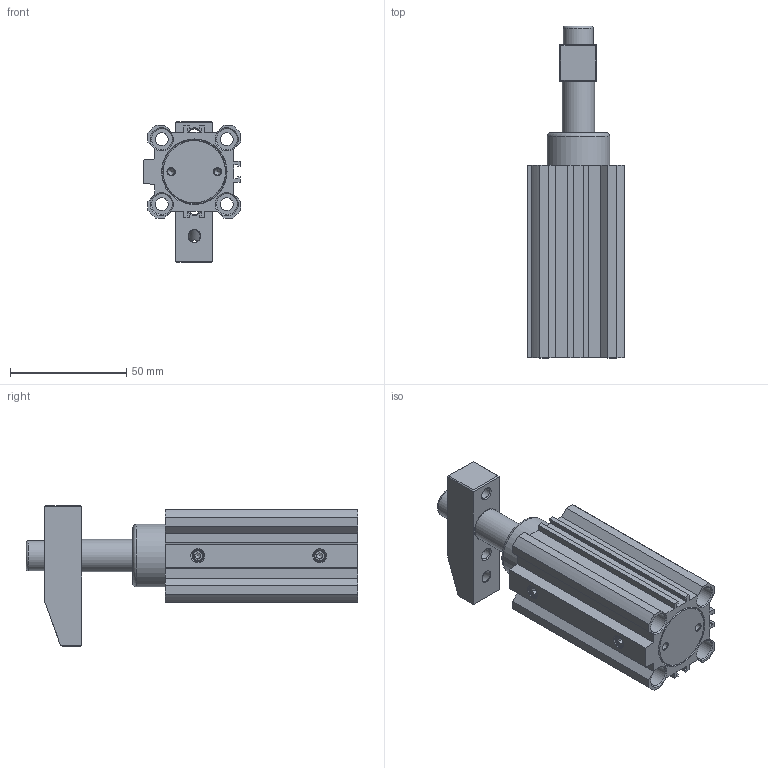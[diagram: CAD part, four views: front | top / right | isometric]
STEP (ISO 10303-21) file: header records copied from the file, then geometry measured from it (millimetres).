
FILE_DESCRIPTION(/* description */ ('STEP AP203'),/* implementation_level */ '2;1');
FILE_NAME(/* name */ 'E:\SERWER_ZAPAS\MODELE brakujace\PNEUMATIC\PB(STEP)\PBL2感应式转角缸三维图\PBL-25L_OTWARTY.stp',/* time_stamp */ '2019-02-01T16:17:03+01:00',/* author */ ('Admin'),/* organization */ ('Î¢ÈíÖÐ¹ú'),/* preprocessor_version */ 'ST-DEVELOPER v17.2',/* originating_system */ 'Autodesk Inventor 2019',/* authorisation */ '');
FILE_SCHEMA (('AUTOMOTIVE_DESIGN { 1 0 10303 214 3 1 1 }'));
Length unit declared in the file: millimetre
Products named in the file (11): PBL25_OTWARTY; µæÆ¬; Ç°¸Ç; »îÈû¸Ë; s¸Ë11; ±¾Ìå11; Parallel pins Unhardening Steel GB_GB_CONNECTING_PIECE_PIN_PPUS 4X24; Hexagon socket head cap screws GB_GB_FASTENER_SCREWS_HSHCS M8X25-S; ºó¸Ç11; Hex socket set screws with flat point GB_GB_FASTENER_SCREWS_HSFP M5X5
-S; Ñ¹±Û
Assembly tree (11 placements, depth 2):
  PBL25_OTWARTY
    µæÆ¬
    Ç°¸Ç
    »îÈû¸Ë
    s¸Ë11
    ±¾Ìå11
    Parallel pins Unhardening Steel GB_GB_CONNECTING_PIECE_PIN_PPUS 4X24
    Hexagon socket head cap screws GB_GB_FASTENER_SCREWS_HSHCS M8X25-S
    ºó¸Ç11
    Hex socket set screws with flat point GB_GB_FASTENER_SCREWS_HSFP M5X5
-S  x2
    Ñ¹±Û
Bounding box: 42.01 x 143 x 60.5 mm (x, y, z)
Volume: 107740.8 mm3; surface area: 65026.7 mm2
Topology: 11 solids, 12 shells, 562 faces, 1560 edges, 1068 vertices
Faces by surface type: plane 181, cone 156, cylinder 149, torus 51, bspline 25
Full cylindrical faces by diameter (mm): 1 x3, 2 x1, 3 x2, 4 x4, 4.8 x2, 5 x28, 5.5 x4, 6.8 x1, 8 x30, 8.5 x1, 9 x8, 9.353 x1, 10 x4, 12.1 x2, 13 x3, 14 x2, 14.1 x3, 16 x1, 16.3 x1, 17 x1, 18.3 x1, 19 x1, 20 x2, 21 x4, 22 x2, 23 x1, 25 x9, 27 x4, 28 x2, 28.5 x2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
Entity records: 23134 total; most frequent: CARTESIAN_POINT 8810, DIRECTION 3121, ORIENTED_EDGE 2870, EDGE_CURVE 1435, AXIS2_PLACEMENT_3D 1287, VERTEX_POINT 990, CIRCLE 770, EDGE_LOOP 605
